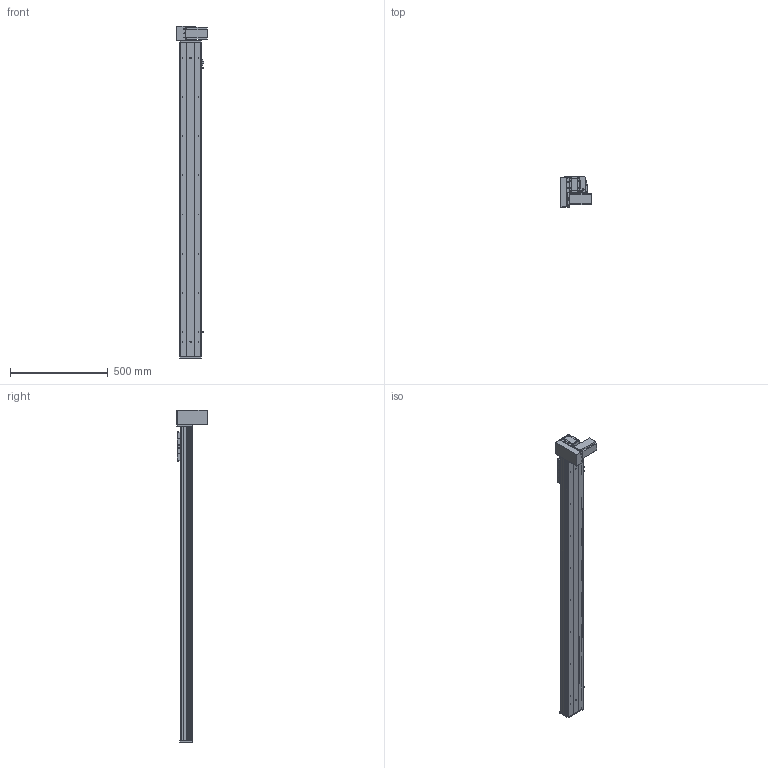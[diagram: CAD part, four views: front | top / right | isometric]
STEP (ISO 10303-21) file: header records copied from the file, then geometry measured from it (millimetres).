
FILE_DESCRIPTION (( 'STEP AP203' ), '1' );
FILE_NAME ('Y10CB-D90-S1350-BM-P400W.STEP', '2020-02-16T09:09:30', ( '微软用户' ), ( '微软中国' ), 'SwSTEP 2.0', 'SolidWorks 2017', '' );
FILE_SCHEMA (( 'CONFIG_CONTROL_DESIGN' ));
Length unit declared in the file: millimetre
Products named in the file (18): 10CB9-掛极; 0Cb-俋欶---; 10CB-耜裔; Y10B-々湍喘謫眊楊擘啣--; 0B-萇儂楊擘啣; Y135C-陔俋离換覜結え-; san松下电机400不带刹车----; Y100-135俋离換覜ん--; 0B-源倛裔啣; Y10B--々湍喘謫眊--666; 0B-埴倛裔啣; 00B-俋欶BM--; 10CB-詩湍-; Y10B-耜蚾蟀諉啣----; Y10CB- 掛极耜裔啣-毀---; Y10CB-D90-S1350-BM-P400W; Y10C---詩湍揤啣; 0CB-雄赽釱---
Assembly tree (21 placements, depth 2):
  Y10CB-D90-S1350-BM-P400W
    0CB-雄赽釱---
    0Cb-俋欶---
    Y10B-々湍喘謫眊楊擘啣--
    0B-萇儂楊擘啣
    san松下电机400不带刹车----
    0B-源倛裔啣
    0B-埴倛裔啣
    10CB-詩湍-
    Y10CB- 掛极耜裔啣-毀---  x2
    Y10C---詩湍揤啣  x2
    10CB9-掛极
    10CB-耜裔
    Y135C-陔俋离換覜結え-
    Y100-135俋离換覜ん--  x3
    Y10B--々湍喘謫眊--666
    00B-俋欶BM--
    Y10B-耜蚾蟀諉啣----
Bounding box: 157 x 156 x 1696 mm (x, y, z)
Volume: 3746515.7 mm3; surface area: 1719764.1 mm2
Topology: 21 solids, 21 shells, 1014 faces, 2723 edges, 1778 vertices
Faces by surface type: cylinder 509, plane 481, cone 24
Entity records: 31912 total; most frequent: CARTESIAN_POINT 5765, DIRECTION 5134, ORIENTED_EDGE 4916, EDGE_CURVE 2458, AXIS2_PLACEMENT_3D 1837, VERTEX_POINT 1604, LINE 1460, VECTOR 1460
